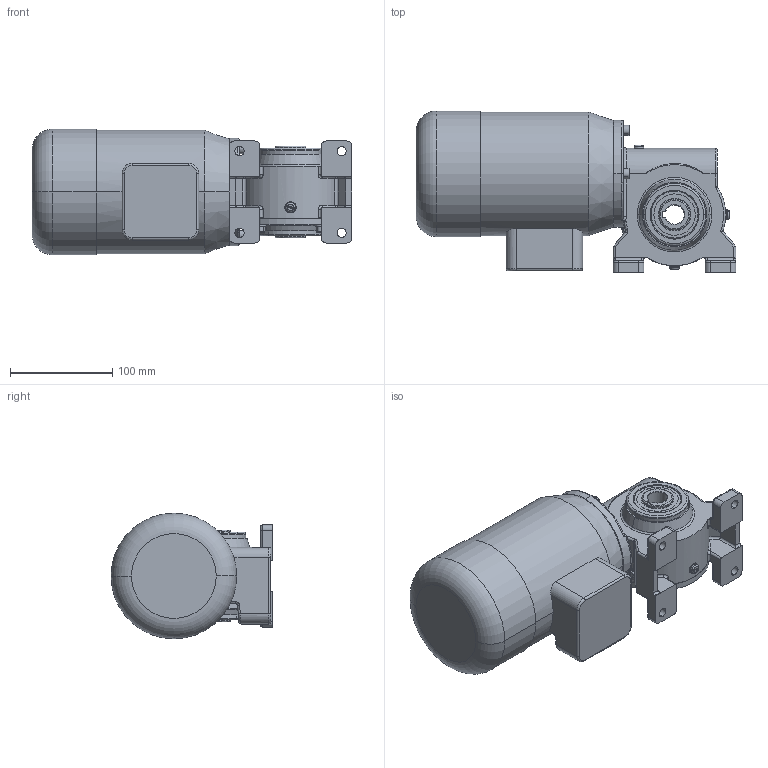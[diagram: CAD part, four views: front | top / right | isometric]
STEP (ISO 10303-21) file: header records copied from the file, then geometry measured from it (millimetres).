
FILE_DESCRIPTION (( 'STEP AP214' ), '1' );
FILE_NAME ('SN9SHH_120W_Drehstrom-Motor_B.STEP', '2021-05-10T10:12:28', ( '' ), ( '' ), 'SwSTEP 2.0', 'SolidWorks 2019', '' );
FILE_SCHEMA (( 'AUTOMOTIVE_DESIGN' ));
Length unit declared in the file: millimetre
Products named in the file (1): SN9SHH_120W_Drehstrom-Motor_B
Bounding box: 313 x 158.5 x 123 mm (x, y, z)
Surface area: 196160 mm2 (no closed solid volume)
Topology: 0 solids, 26 shells, 463 faces, 1258 edges, 783 vertices
Faces by surface type: cylinder 165, plane 153, torus 71, cone 47, bspline 23, sphere 4
Entity records: 21358 total; most frequent: CARTESIAN_POINT 4727, DIRECTION 2576, ORIENTED_EDGE 2201, EDGE_CURVE 1227, AXIS2_PLACEMENT_3D 1031, VERTEX_POINT 779, CIRCLE 590, EDGE_LOOP 529
